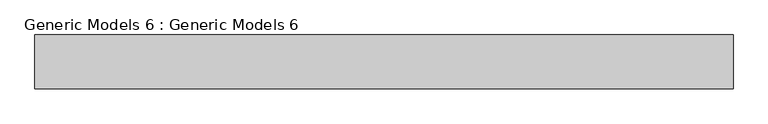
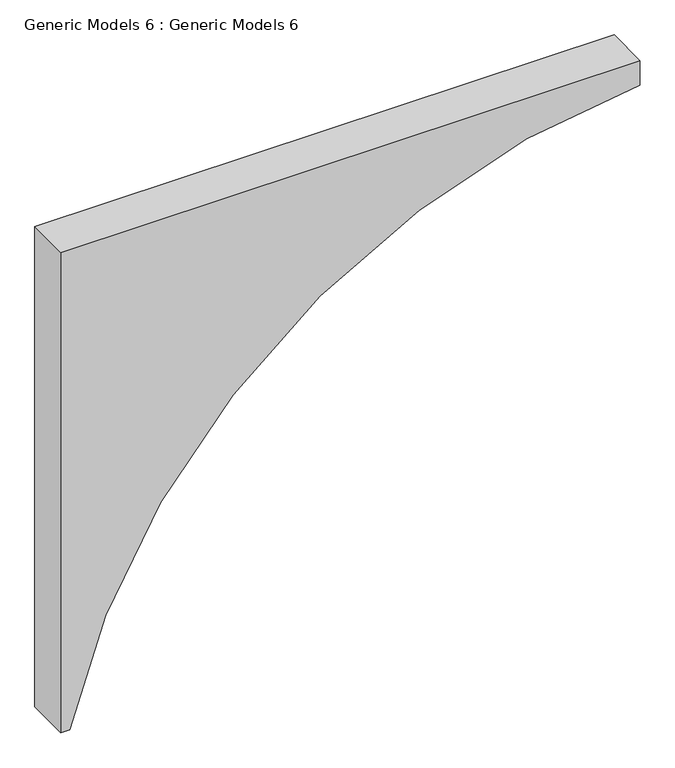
"""IFC4 building model written with IfcOpenShell, lengths in millimetres: proxy geometry, Generic Models 6 : Generic Models 6."""

from ifc_helpers import new_model, si_unit, frame, origin, place, context, project, spatial, polyline, circle_curve, source, transform, mapped, element, save
from ifc_brep_helpers import plane_surface, cylinder_surface, revolved_surface, advanced_brep


def generic_models_6_generic_models_6_a9f09b6d(model_context):
    return source(origin(), model_context, "Body", "AdvancedBrep", [
        advanced_brep(
        [(40652.3355956, 31893.7215248, 3717.6777234), (36410.3942411, 31893.7215248, 3717.6777234), (36410.3942411, 31893.7215248, 0.0), (36478.0517399, 31893.7215248, 0.0), (40652.3355956, 31893.7215248, 3526.7369483), (40652.3355956, 32220.4775525, 3717.6777234), (40652.3355956, 32220.4775525, 3526.7369483), (36478.0517399, 32220.4775525, 0.0), (36410.3942411, 32220.4775525, 0.0), (36410.3942411, 32220.4775525, 3717.6777234), (36647.748763, 32220.4775525, 1729.3095645), (38718.06814, 32220.4775525, 3376.2241464), (36647.748763, 32220.4775525, 3376.2241464), (36647.748763, 32027.8884386, 1729.3095645), (36647.748763, 32027.8884386, 3376.2241464), (38718.06814, 32027.8884386, 3376.2241464)],
        [
            (0, 1),
            (1, 2),
            (2, 3),
            (3, 4, circle_curve(frame((40923.0803115, 31893.7215248, -1027.4515657), z_axis=(0.0, 1.0, 0.0), x_axis=(-1.0, 0.0, 0.0)), 4562.2292492)),
            (4, 0),
            (5, 6),
            (6, 7, circle_curve(frame((40923.0803115, 32220.4775525, -1027.4515657), z_axis=(0.0, -1.0, 0.0), x_axis=(-1.0, 0.0, 0.0)), 4562.2292492)),
            (7, 8),
            (8, 9),
            (9, 5),
            (10, 11, circle_curve(frame((40530.9298678, 32220.4775525, -1027.4515657), z_axis=(0.0, 1.0, 0.0), x_axis=(-1.0, 0.0, 0.0)), 4762.2292492)),
            (11, 12),
            (12, 10),
            (13, 14),
            (14, 15),
            (15, 13, circle_curve(frame((40530.9298678, 32027.8884386, -1027.4515657), z_axis=(0.0, -1.0, 0.0), x_axis=(-1.0, 0.0, 0.0)), 4762.2292492)),
            (0, 5),
            (9, 1),
            (8, 2),
            (7, 3),
            (6, 4),
            (15, 11),
            (10, 13),
            (14, 12),
        ],
        [
            plane_surface(frame((35014.1872622, 31893.7215248, 3717.6777234), z_axis=(0.0, -1.0, 0.0), x_axis=(-1.0, 0.0, 0.0))),
            plane_surface(frame((35014.1872622, 32220.4775525, 3717.6777234), z_axis=(0.0, 1.0, 0.0), x_axis=(1.0, 0.0, 0.0))),
            plane_surface(frame((35768.7006186, 32027.8884386, -1027.4515657), z_axis=(0.0, 1.0, 0.0), x_axis=(0.0, 0.0, 1.0))),
            plane_surface(frame((40652.3355956, 31893.7215248, 3717.6777234), z_axis=(0.0, 0.0, 1.0), x_axis=(0.0, 1.0, 0.0))),
            plane_surface(frame((36410.3942411, 31893.7215248, 3717.6777234), z_axis=(-1.0, 0.0, 0.0), x_axis=(0.0, 1.0, 0.0))),
            plane_surface(frame((36410.3942411, 31893.7215248, 0.0), z_axis=(0.0, 0.0, -1.0), x_axis=(0.0, 1.0, 0.0))),
            revolved_surface(polyline([(36360.851062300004, 32220.4775525, -1027.4515657), (36360.851062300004, 31893.7215248, -1027.4515657)]), (40923.0803115, 32220.4775525, -1027.4515657), (0.0, 1.0, 0.0)),
            plane_surface(frame((40652.3355956, 31893.7215248, 3526.7369483), z_axis=(1.0, 0.0, 0.0), x_axis=(0.0, 1.0, 0.0))),
            cylinder_surface(frame((40530.9298678, 32220.4775525, -1027.4515657), z_axis=(0.0, 1.0, 0.0), x_axis=(-1.0, 0.0, 0.0)), 4762.2292492),
            plane_surface(frame((38718.06814, 32027.8884386, 3376.2241464), z_axis=(0.0, 0.0, -1.0), x_axis=(0.0, 1.0, 0.0))),
            plane_surface(frame((36647.748763, 32027.8884386, 3376.2241464), z_axis=(1.0, 0.0, 0.0), x_axis=(0.0, 1.0, 0.0))),
        ],
        [
            (0, [[1, 2, 3, 4, 5]]),
            (1, [[6, 7, 8, 9, 10], [11, 12, 13]]),
            (2, [[14, 15, 16]]),
            (3, [[-1, 17, -10, 18]]),
            (4, [[-2, -18, -9, 19]]),
            (5, [[-3, -19, -8, 20]]),
            (6, [[-4, -20, -7, 21]]),
            (7, [[-5, -21, -6, -17]]),
            (8, [[-16, 22, -11, 23]]),
            (9, [[-15, 24, -12, -22]]),
            (10, [[-14, -23, -13, -24]]),
        ],
    ),
    ])


if __name__ == "__main__":
    model = new_model("IFC4")
    model_context = context("Model", 3, world=origin())
    ifc_project = project(units=[si_unit("LENGTHUNIT", "METRE", prefix="MILLI")], contexts=[model_context])
    site = spatial("IfcSite", under=ifc_project)
    building = spatial("IfcBuilding", under=site)
    placement = place(None, origin())
    generic_models_6_generic_models_6_shape = generic_models_6_generic_models_6_a9f09b6d(model_context)
    element("IfcBuildingElementProxy", 1, Name="Generic Models 6 : Generic Models 6", ObjectType="Generic Models 6 : Generic Models 6", at=placement, inside=building, context=model_context, shape_type="MappedRepresentation", body=[
        mapped(generic_models_6_generic_models_6_shape, transform((0.0, 0.0, 0.0), x_axis=(1.0, 0.0, 0.0), y_axis=(0.0, 1.0, 0.0), z_axis=(0.0, 0.0, 1.0))),
    ])
    save(model, "model.ifc")
